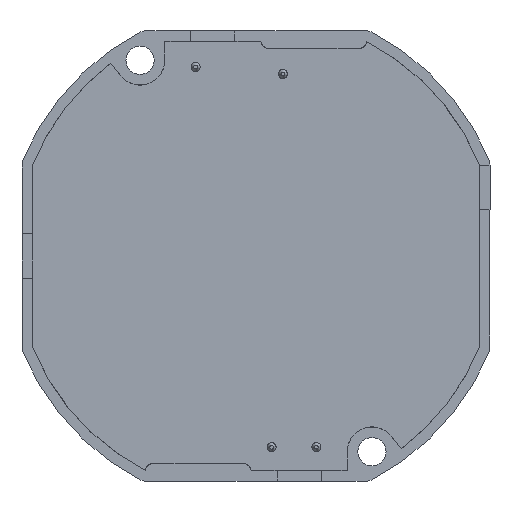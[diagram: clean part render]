
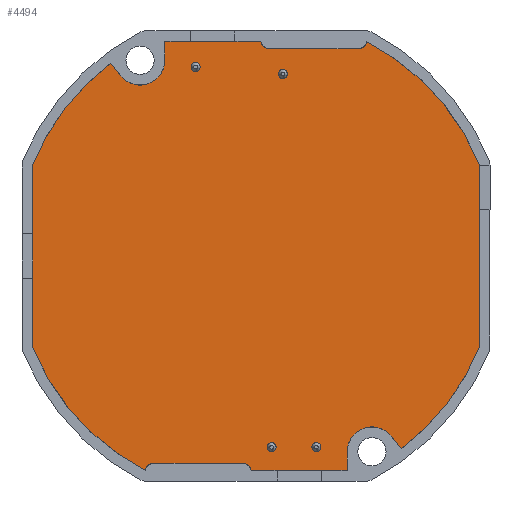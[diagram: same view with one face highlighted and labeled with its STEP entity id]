
A CAD part, front view. The second image highlights one B-rep face of the part: STEP entity #4494.
In plain terms, the highlighted planar face has unit normal (0, -1, 0).
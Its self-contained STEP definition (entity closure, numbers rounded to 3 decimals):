
#91=LINE('',#6033,#324);
#92=LINE('',#6035,#325);
#93=LINE('',#6039,#326);
#94=LINE('',#6043,#327);
#95=LINE('',#6049,#328);
#96=LINE('',#6053,#329);
#97=LINE('',#6055,#330);
#98=LINE('',#6059,#331);
#99=LINE('',#6063,#332);
#100=LINE('',#6069,#333);
#324=VECTOR('',#5095,1000.);
#325=VECTOR('',#5096,1000.);
#326=VECTOR('',#5099,1000.);
#327=VECTOR('',#5102,1000.);
#328=VECTOR('',#5107,1000.);
#329=VECTOR('',#5110,1000.);
#330=VECTOR('',#5111,1000.);
#331=VECTOR('',#5114,1000.);
#332=VECTOR('',#5117,1000.);
#333=VECTOR('',#5122,1000.);
#557=ELLIPSE('',#4708,1.,1.);
#558=ELLIPSE('',#4712,1.,1.);
#559=ELLIPSE('',#4713,1.,1.);
#560=ELLIPSE('',#4717,1.,1.);
#590=PLANE('',#4707);
#736=ORIENTED_EDGE('',*,*,#1640,.T.);
#737=ORIENTED_EDGE('',*,*,#1641,.T.);
#738=ORIENTED_EDGE('',*,*,#1642,.T.);
#739=ORIENTED_EDGE('',*,*,#1643,.F.);
#740=ORIENTED_EDGE('',*,*,#1644,.T.);
#741=ORIENTED_EDGE('',*,*,#1645,.T.);
#742=ORIENTED_EDGE('',*,*,#1646,.T.);
#743=ORIENTED_EDGE('',*,*,#1647,.T.);
#744=ORIENTED_EDGE('',*,*,#1648,.F.);
#745=ORIENTED_EDGE('',*,*,#1649,.F.);
#746=ORIENTED_EDGE('',*,*,#1650,.F.);
#747=ORIENTED_EDGE('',*,*,#1651,.T.);
#748=ORIENTED_EDGE('',*,*,#1652,.T.);
#749=ORIENTED_EDGE('',*,*,#1653,.F.);
#750=ORIENTED_EDGE('',*,*,#1654,.T.);
#751=ORIENTED_EDGE('',*,*,#1655,.T.);
#752=ORIENTED_EDGE('',*,*,#1656,.T.);
#753=ORIENTED_EDGE('',*,*,#1657,.T.);
#754=ORIENTED_EDGE('',*,*,#1658,.F.);
#755=ORIENTED_EDGE('',*,*,#1659,.F.);
#756=ORIENTED_EDGE('',*,*,#1638,.F.);
#757=ORIENTED_EDGE('',*,*,#1635,.F.);
#758=ORIENTED_EDGE('',*,*,#1632,.F.);
#759=ORIENTED_EDGE('',*,*,#1629,.F.);
#1629=EDGE_CURVE('',#2085,#2085,#2403,.T.);
#1632=EDGE_CURVE('',#2088,#2088,#2406,.T.);
#1635=EDGE_CURVE('',#2091,#2091,#2409,.T.);
#1638=EDGE_CURVE('',#2094,#2094,#2412,.T.);
#1640=EDGE_CURVE('',#2096,#2097,#557,.F.);
#1641=EDGE_CURVE('',#2097,#2098,#91,.T.);
#1642=EDGE_CURVE('',#2098,#2099,#92,.T.);
#1643=EDGE_CURVE('',#2100,#2099,#2414,.T.);
#1644=EDGE_CURVE('',#2100,#2101,#93,.T.);
#1645=EDGE_CURVE('',#2101,#2102,#2415,.T.);
#1646=EDGE_CURVE('',#2102,#2103,#94,.T.);
#1647=EDGE_CURVE('',#2103,#2104,#2416,.T.);
#1648=EDGE_CURVE('',#2105,#2104,#558,.T.);
#1649=EDGE_CURVE('',#2106,#2105,#95,.T.);
#1650=EDGE_CURVE('',#2107,#2106,#559,.T.);
#1651=EDGE_CURVE('',#2107,#2108,#96,.T.);
#1652=EDGE_CURVE('',#2108,#2109,#97,.T.);
#1653=EDGE_CURVE('',#2110,#2109,#2417,.T.);
#1654=EDGE_CURVE('',#2110,#2111,#98,.T.);
#1655=EDGE_CURVE('',#2111,#2112,#2418,.T.);
#1656=EDGE_CURVE('',#2112,#2113,#99,.T.);
#1657=EDGE_CURVE('',#2113,#2114,#2419,.T.);
#1658=EDGE_CURVE('',#2115,#2114,#560,.T.);
#1659=EDGE_CURVE('',#2096,#2115,#100,.T.);
#2085=VERTEX_POINT('',#5997);
#2088=VERTEX_POINT('',#6006);
#2091=VERTEX_POINT('',#6015);
#2094=VERTEX_POINT('',#6024);
#2096=VERTEX_POINT('',#6031);
#2097=VERTEX_POINT('',#6032);
#2098=VERTEX_POINT('',#6034);
#2099=VERTEX_POINT('',#6036);
#2100=VERTEX_POINT('',#6038);
#2101=VERTEX_POINT('',#6040);
#2102=VERTEX_POINT('',#6042);
#2103=VERTEX_POINT('',#6044);
#2104=VERTEX_POINT('',#6046);
#2105=VERTEX_POINT('',#6048);
#2106=VERTEX_POINT('',#6050);
#2107=VERTEX_POINT('',#6052);
#2108=VERTEX_POINT('',#6054);
#2109=VERTEX_POINT('',#6056);
#2110=VERTEX_POINT('',#6058);
#2111=VERTEX_POINT('',#6060);
#2112=VERTEX_POINT('',#6062);
#2113=VERTEX_POINT('',#6064);
#2114=VERTEX_POINT('',#6066);
#2115=VERTEX_POINT('',#6068);
#2403=CIRCLE('',#4685,0.508);
#2406=CIRCLE('',#4691,0.508);
#2409=CIRCLE('',#4697,0.508);
#2412=CIRCLE('',#4703,0.508);
#2414=CIRCLE('',#4709,2.812);
#2415=CIRCLE('',#4710,27.338);
#2416=CIRCLE('',#4711,27.338);
#2417=CIRCLE('',#4714,2.812);
#2418=CIRCLE('',#4715,27.338);
#2419=CIRCLE('',#4716,27.338);
#2565=EDGE_LOOP('',(#736,#737,#738,#739,#740,#741,#742,#743,#744,#745,#746,
#747,#748,#749,#750,#751,#752,#753,#754,#755));
#2566=EDGE_LOOP('',(#756));
#2567=EDGE_LOOP('',(#757));
#2568=EDGE_LOOP('',(#758));
#2569=EDGE_LOOP('',(#759));
#2819=FACE_BOUND('',#2565,.T.);
#2820=FACE_BOUND('',#2566,.T.);
#2821=FACE_BOUND('',#2567,.T.);
#2822=FACE_BOUND('',#2568,.T.);
#2823=FACE_BOUND('',#2569,.T.);
#4494=ADVANCED_FACE('',(#2819,#2820,#2821,#2822,#2823),#590,.T.);
#4685=AXIS2_PLACEMENT_3D('',#5996,#5047,#5048);
#4691=AXIS2_PLACEMENT_3D('',#6005,#5059,#5060);
#4697=AXIS2_PLACEMENT_3D('',#6014,#5071,#5072);
#4703=AXIS2_PLACEMENT_3D('',#6023,#5083,#5084);
#4707=AXIS2_PLACEMENT_3D('',#6029,#5091,#5092);
#4708=AXIS2_PLACEMENT_3D('',#6030,#5093,#5094);
#4709=AXIS2_PLACEMENT_3D('',#6037,#5097,#5098);
#4710=AXIS2_PLACEMENT_3D('',#6041,#5100,#5101);
#4711=AXIS2_PLACEMENT_3D('',#6045,#5103,#5104);
#4712=AXIS2_PLACEMENT_3D('',#6047,#5105,#5106);
#4713=AXIS2_PLACEMENT_3D('',#6051,#5108,#5109);
#4714=AXIS2_PLACEMENT_3D('',#6057,#5112,#5113);
#4715=AXIS2_PLACEMENT_3D('',#6061,#5115,#5116);
#4716=AXIS2_PLACEMENT_3D('',#6065,#5118,#5119);
#4717=AXIS2_PLACEMENT_3D('',#6067,#5120,#5121);
#5047=DIRECTION('',(0.,-1.,0.));
#5048=DIRECTION('',(0.,0.,1.));
#5059=DIRECTION('',(0.,-1.,0.));
#5060=DIRECTION('',(0.,0.,1.));
#5071=DIRECTION('',(0.,-1.,0.));
#5072=DIRECTION('',(0.,0.,1.));
#5083=DIRECTION('',(0.,-1.,0.));
#5084=DIRECTION('',(0.,0.,1.));
#5091=DIRECTION('',(0.,-1.,0.));
#5092=DIRECTION('',(1.,0.,0.));
#5093=DIRECTION('',(0.,-1.,0.));
#5094=DIRECTION('',(-0.728,0.,-0.686));
#5095=DIRECTION('',(-1.,0.,0.));
#5096=DIRECTION('',(0.,0.,-1.));
#5097=DIRECTION('',(0.,-1.,0.));
#5098=DIRECTION('',(0.,0.,1.));
#5099=DIRECTION('',(-0.622,0.,0.783));
#5100=DIRECTION('',(0.,-1.,0.));
#5101=DIRECTION('',(0.,0.,1.));
#5102=DIRECTION('',(0.,0.,-1.));
#5103=DIRECTION('',(0.,-1.,0.));
#5104=DIRECTION('',(0.,0.,1.));
#5105=DIRECTION('',(0.,-1.,0.));
#5106=DIRECTION('',(0.77,0.,-0.638));
#5107=DIRECTION('',(-1.,0.,0.));
#5108=DIRECTION('',(0.,-1.,0.));
#5109=DIRECTION('',(0.728,0.,0.686));
#5110=DIRECTION('',(1.,0.,0.));
#5111=DIRECTION('',(0.,0.,1.));
#5112=DIRECTION('',(0.,-1.,0.));
#5113=DIRECTION('',(0.,0.,1.));
#5114=DIRECTION('',(0.622,0.,-0.783));
#5115=DIRECTION('',(0.,-1.,0.));
#5116=DIRECTION('',(0.,0.,1.));
#5117=DIRECTION('',(0.,0.,1.));
#5118=DIRECTION('',(0.,-1.,0.));
#5119=DIRECTION('',(0.,0.,1.));
#5120=DIRECTION('',(0.,-1.,0.));
#5121=DIRECTION('',(0.772,0.,-0.636));
#5122=DIRECTION('',(1.,0.,0.));
#5996=CARTESIAN_POINT('',(6.844,1.003,-21.655));
#5997=CARTESIAN_POINT('',(6.844,1.003,-21.147));
#6005=CARTESIAN_POINT('',(1.767,1.003,-21.66));
#6006=CARTESIAN_POINT('',(1.767,1.003,-21.152));
#6014=CARTESIAN_POINT('',(3.043,1.003,20.617));
#6015=CARTESIAN_POINT('',(3.043,1.003,21.125));
#6023=CARTESIAN_POINT('',(-6.849,1.003,21.413));
#6024=CARTESIAN_POINT('',(-6.849,1.003,21.921));
#6029=CARTESIAN_POINT('',(-0.003,1.003,0.));
#6030=CARTESIAN_POINT('',(1.518,1.003,24.491));
#6031=CARTESIAN_POINT('',(1.518,1.003,23.491));
#6032=CARTESIAN_POINT('',(0.539,1.003,24.288));
#6033=CARTESIAN_POINT('',(-0.003,1.003,24.288));
#6034=CARTESIAN_POINT('',(-10.326,1.003,24.288));
#6035=CARTESIAN_POINT('',(-10.326,1.003,0.));
#6036=CARTESIAN_POINT('',(-10.326,1.003,22.175));
#6037=CARTESIAN_POINT('',(-13.138,1.003,22.175));
#6038=CARTESIAN_POINT('',(-15.339,1.003,20.425));
#6039=CARTESIAN_POINT('',(0.547,1.003,0.438));
#6040=CARTESIAN_POINT('',(-16.457,1.003,21.833));
#6041=CARTESIAN_POINT('',(-0.003,1.003,0.));
#6042=CARTESIAN_POINT('',(-25.292,1.003,10.387));
#6043=CARTESIAN_POINT('',(-25.292,1.003,0.));
#6044=CARTESIAN_POINT('',(-25.292,1.003,-10.387));
#6045=CARTESIAN_POINT('',(-0.003,1.003,0.));
#6046=CARTESIAN_POINT('',(-12.564,1.003,-24.282));
#6047=CARTESIAN_POINT('',(-11.585,1.003,-24.491));
#6048=CARTESIAN_POINT('',(-11.586,1.003,-23.491));
#6049=CARTESIAN_POINT('',(-0.003,1.003,-23.491));
#6050=CARTESIAN_POINT('',(-1.525,1.003,-23.491));
#6051=CARTESIAN_POINT('',(-1.525,1.003,-24.491));
#6052=CARTESIAN_POINT('',(-0.546,1.003,-24.288));
#6053=CARTESIAN_POINT('',(-0.003,1.003,-24.288));
#6054=CARTESIAN_POINT('',(10.319,1.003,-24.288));
#6055=CARTESIAN_POINT('',(10.319,1.003,0.));
#6056=CARTESIAN_POINT('',(10.319,1.003,-22.175));
#6057=CARTESIAN_POINT('',(13.131,1.003,-22.175));
#6058=CARTESIAN_POINT('',(15.332,1.003,-20.425));
#6059=CARTESIAN_POINT('',(-0.554,1.003,-0.438));
#6060=CARTESIAN_POINT('',(16.45,1.003,-21.833));
#6061=CARTESIAN_POINT('',(-0.003,1.003,0.));
#6062=CARTESIAN_POINT('',(25.285,1.003,-10.387));
#6063=CARTESIAN_POINT('',(25.285,1.003,0.));
#6064=CARTESIAN_POINT('',(25.285,1.003,10.387));
#6065=CARTESIAN_POINT('',(-0.003,1.003,0.));
#6066=CARTESIAN_POINT('',(12.557,1.003,24.282));
#6067=CARTESIAN_POINT('',(11.578,1.003,24.491));
#6068=CARTESIAN_POINT('',(11.579,1.003,23.491));
#6069=CARTESIAN_POINT('',(-0.003,1.003,23.491));
